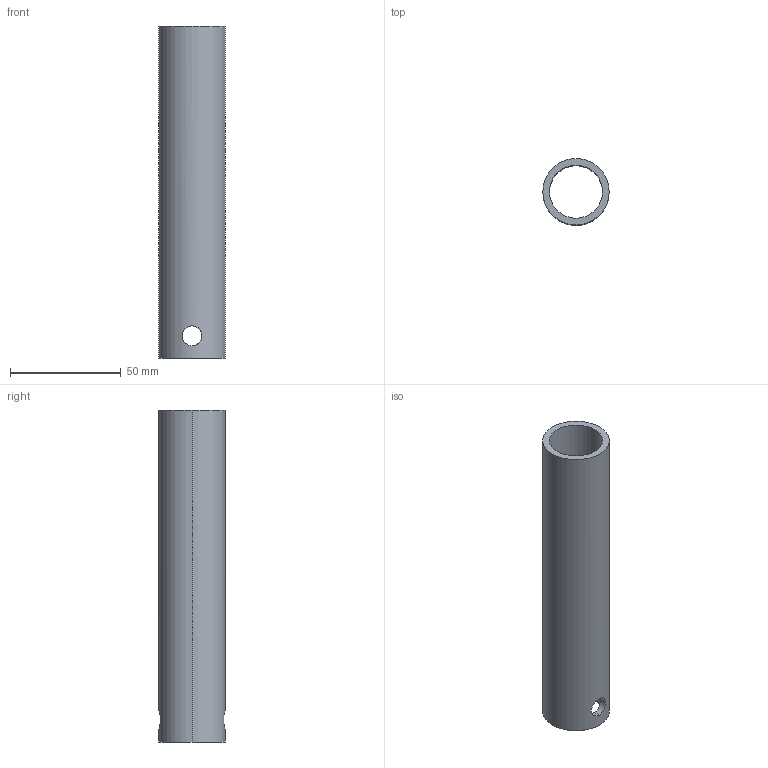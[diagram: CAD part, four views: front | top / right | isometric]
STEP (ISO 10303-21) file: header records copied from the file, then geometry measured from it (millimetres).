
FILE_DESCRIPTION (( 'STEP AP214' ), '1' );
FILE_NAME ('SMBY30-150.STEP', '2023-01-05T09:26:20', ( 'Windows User' ), ( 'P R C' ), 'SwSTEP 2.0', 'SolidWorks 2018', '' );
FILE_SCHEMA (( 'AUTOMOTIVE_DESIGN' ));
Length unit declared in the file: millimetre
Products named in the file (1): SMBY30-150
Bounding box: 30 x 30 x 150 mm (x, y, z)
Volume: 37783 mm3; surface area: 25872.3 mm2
Topology: 1 solids, 1 shells, 10 faces, 24 edges, 16 vertices
Faces by surface type: cylinder 8, plane 2
Entity records: 620 total; most frequent: CARTESIAN_POINT 323, ORIENTED_EDGE 48, DIRECTION 46, EDGE_CURVE 24, AXIS2_PLACEMENT_3D 19, VERTEX_POINT 16, EDGE_LOOP 16, ADVANCED_FACE 10
